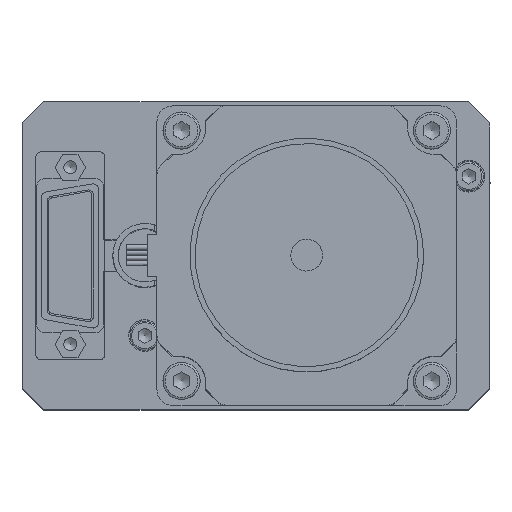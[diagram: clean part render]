
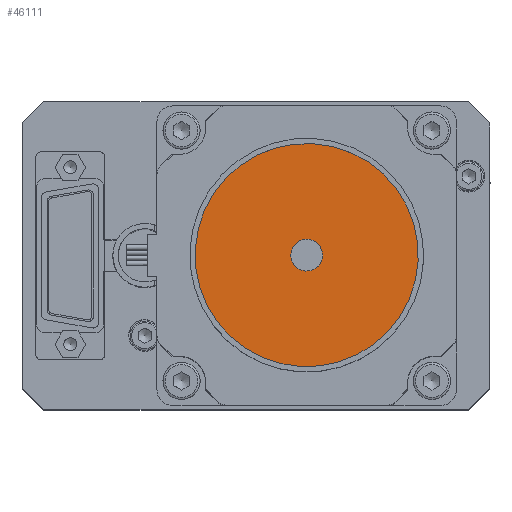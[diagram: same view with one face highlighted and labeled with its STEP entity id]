
A CAD part, top view. The second image highlights one B-rep face of the part: STEP entity #46111.
In plain terms, the highlighted planar face has unit normal (0, 0, 1).
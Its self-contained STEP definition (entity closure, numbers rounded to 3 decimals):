
#46084=CARTESIAN_POINT('',(22.314,12.024,129.5));
#46085=DIRECTION('',(0.0,0.0,1.0));
#46086=DIRECTION('',(-0.835,0.55,0.0));
#46087=AXIS2_PLACEMENT_3D('',#46084,#46085,#46086);
#46088=PLANE('',#46087);
#46089=CARTESIAN_POINT('',(17.366,4.507,129.5));
#46090=VERTEX_POINT('',#46089);
#46091=CARTESIAN_POINT('',(28.912,22.048,129.5));
#46092=DIRECTION('',(0.,0.,1.0));
#46093=DIRECTION('',(-0.55,-0.835,0.));
#46094=AXIS2_PLACEMENT_3D('',#46091,#46092,#46093);
#46095=CIRCLE('',#46094,21.);
#46096=EDGE_CURVE('',#46090,#46090,#46095,.T.);
#46097=ORIENTED_EDGE('',*,*,#46096,.T.);
#46098=EDGE_LOOP('',(#46097));
#46099=FACE_OUTER_BOUND('',#46098,.T.);
#46100=CARTESIAN_POINT('',(27.263,19.542,129.5));
#46101=VERTEX_POINT('',#46100);
#46102=CARTESIAN_POINT('',(28.912,22.048,129.5));
#46103=DIRECTION('',(0.,0.,1.0));
#46104=DIRECTION('',(-0.55,-0.835,0.));
#46105=AXIS2_PLACEMENT_3D('',#46102,#46103,#46104);
#46106=CIRCLE('',#46105,3.);
#46107=EDGE_CURVE('',#46101,#46101,#46106,.T.);
#46108=ORIENTED_EDGE('',*,*,#46107,.F.);
#46109=EDGE_LOOP('',(#46108));
#46110=FACE_BOUND('',#46109,.T.);
#46111=ADVANCED_FACE('',(#46099,#46110),#46088,.T.);
